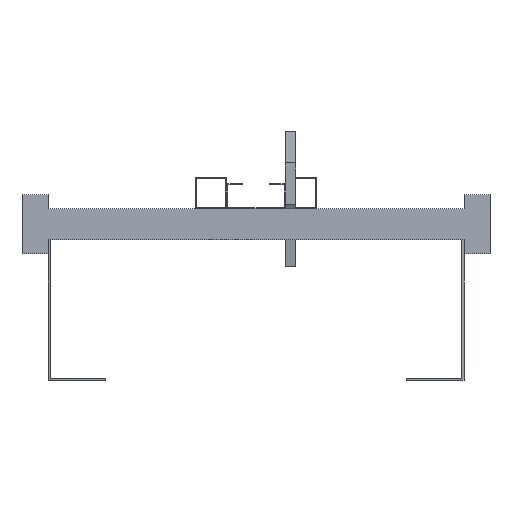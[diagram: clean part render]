
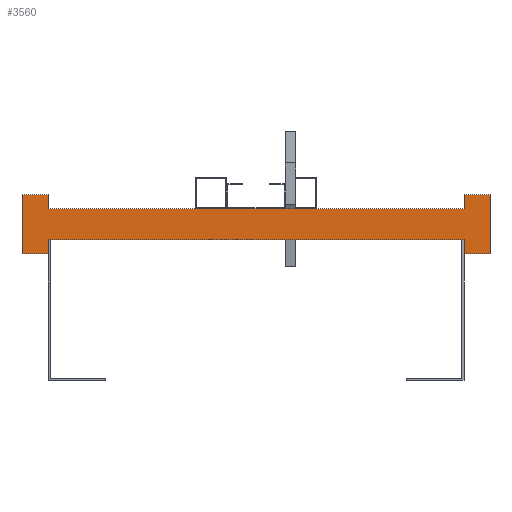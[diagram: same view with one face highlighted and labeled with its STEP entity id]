
A CAD part, front view. The second image highlights one B-rep face of the part: STEP entity #3560.
In plain terms, the highlighted planar face has unit normal (0, -1, 0).
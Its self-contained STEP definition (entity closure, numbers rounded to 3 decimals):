
#1265=DIRECTION('',(0.,0.,1.));
#1266=VECTOR('',#1265,13.5);
#1267=CARTESIAN_POINT('',(200.,0.,-28.5));
#1268=LINE('',#1267,#1266);
#1269=DIRECTION('',(0.,0.,-1.));
#1270=VECTOR('',#1269,13.5);
#1271=CARTESIAN_POINT('',(-200.,0.,-15.));
#1272=LINE('',#1271,#1270);
#1273=DIRECTION('',(-1.,0.,0.));
#1274=VECTOR('',#1273,25.);
#1275=CARTESIAN_POINT('',(-200.,0.,-28.5));
#1276=LINE('',#1275,#1274);
#1277=DIRECTION('',(0.,0.,1.));
#1278=VECTOR('',#1277,57.);
#1279=CARTESIAN_POINT('',(-225.,0.,-28.5));
#1280=LINE('',#1279,#1278);
#1281=DIRECTION('',(1.,0.,0.));
#1282=VECTOR('',#1281,25.);
#1283=CARTESIAN_POINT('',(-225.,0.,28.5));
#1284=LINE('',#1283,#1282);
#1285=DIRECTION('',(0.,0.,-1.));
#1286=VECTOR('',#1285,13.5);
#1287=CARTESIAN_POINT('',(-200.,0.,28.5));
#1288=LINE('',#1287,#1286);
#1289=DIRECTION('',(0.,0.,1.));
#1290=VECTOR('',#1289,13.5);
#1291=CARTESIAN_POINT('',(200.,0.,15.));
#1292=LINE('',#1291,#1290);
#1293=DIRECTION('',(1.,0.,0.));
#1294=VECTOR('',#1293,25.);
#1295=CARTESIAN_POINT('',(200.,0.,28.5));
#1296=LINE('',#1295,#1294);
#1297=DIRECTION('',(0.,0.,-1.));
#1298=VECTOR('',#1297,57.);
#1299=CARTESIAN_POINT('',(225.,0.,28.5));
#1300=LINE('',#1299,#1298);
#1301=DIRECTION('',(-1.,0.,0.));
#1302=VECTOR('',#1301,25.);
#1303=CARTESIAN_POINT('',(225.,0.,-28.5));
#1304=LINE('',#1303,#1302);
#1305=DIRECTION('',(1.,0.,0.));
#1306=VECTOR('',#1305,400.);
#1307=CARTESIAN_POINT('',(-200.,0.,-15.));
#1308=LINE('',#1307,#1306);
#1317=DIRECTION('',(1.,0.,0.));
#1318=VECTOR('',#1317,400.);
#1319=CARTESIAN_POINT('',(-200.,0.,15.));
#1320=LINE('',#1319,#1318);
#1457=CARTESIAN_POINT('',(-225.,0.,28.5));
#1458=CARTESIAN_POINT('',(-200.,0.,28.5));
#1459=VERTEX_POINT('',#1457);
#1460=VERTEX_POINT('',#1458);
#1461=CARTESIAN_POINT('',(-200.,0.,-28.5));
#1462=CARTESIAN_POINT('',(-225.,0.,-28.5));
#1463=VERTEX_POINT('',#1461);
#1464=VERTEX_POINT('',#1462);
#1465=CARTESIAN_POINT('',(225.,0.,28.5));
#1466=CARTESIAN_POINT('',(225.,0.,-28.5));
#1467=VERTEX_POINT('',#1465);
#1468=VERTEX_POINT('',#1466);
#1469=CARTESIAN_POINT('',(200.,0.,-28.5));
#1470=VERTEX_POINT('',#1469);
#1471=CARTESIAN_POINT('',(200.,0.,28.5));
#1472=VERTEX_POINT('',#1471);
#1489=CARTESIAN_POINT('',(-200.,0.,-15.));
#1491=VERTEX_POINT('',#1489);
#1493=CARTESIAN_POINT('',(-200.,0.,15.));
#1495=VERTEX_POINT('',#1493);
#1497=CARTESIAN_POINT('',(200.,0.,-15.));
#1499=VERTEX_POINT('',#1497);
#1501=CARTESIAN_POINT('',(200.,0.,15.));
#1503=VERTEX_POINT('',#1501);
#3536=CARTESIAN_POINT('',(0.,0.,0.));
#3537=DIRECTION('',(0.,1.,0.));
#3538=DIRECTION('',(1.,0.,0.));
#3539=AXIS2_PLACEMENT_3D('',#3536,#3537,#3538);
#3540=PLANE('',#3539);
#3541=ORIENTED_EDGE('',*,*,#2185,.T.);
#3543=ORIENTED_EDGE('',*,*,#3542,.F.);
#3544=ORIENTED_EDGE('',*,*,#1933,.T.);
#3545=ORIENTED_EDGE('',*,*,#3042,.T.);
#3547=ORIENTED_EDGE('',*,*,#3546,.T.);
#3548=ORIENTED_EDGE('',*,*,#3527,.T.);
#3549=ORIENTED_EDGE('',*,*,#1941,.T.);
#3551=ORIENTED_EDGE('',*,*,#3550,.T.);
#3552=ORIENTED_EDGE('',*,*,#2177,.T.);
#3554=ORIENTED_EDGE('',*,*,#3553,.T.);
#3556=ORIENTED_EDGE('',*,*,#3555,.T.);
#3557=ORIENTED_EDGE('',*,*,#2943,.T.);
#3558=EDGE_LOOP('',(#3541,#3543,#3544,#3545,#3547,#3548,#3549,#3551,#3552,#3554,
#3556,#3557));
#3559=FACE_OUTER_BOUND('',#3558,.F.);
#1933=EDGE_CURVE('',#1491,#1463,#1272,.T.);
#1941=EDGE_CURVE('',#1460,#1495,#1288,.T.);
#2177=EDGE_CURVE('',#1503,#1472,#1292,.T.);
#2185=EDGE_CURVE('',#1470,#1499,#1268,.T.);
#2943=EDGE_CURVE('',#1468,#1470,#1304,.T.);
#3042=EDGE_CURVE('',#1463,#1464,#1276,.T.);
#3527=EDGE_CURVE('',#1459,#1460,#1284,.T.);
#3542=EDGE_CURVE('',#1491,#1499,#1308,.T.);
#3546=EDGE_CURVE('',#1464,#1459,#1280,.T.);
#3550=EDGE_CURVE('',#1495,#1503,#1320,.T.);
#3553=EDGE_CURVE('',#1472,#1467,#1296,.T.);
#3555=EDGE_CURVE('',#1467,#1468,#1300,.T.);
#3560=ADVANCED_FACE('',(#3559),#3540,.F.);
